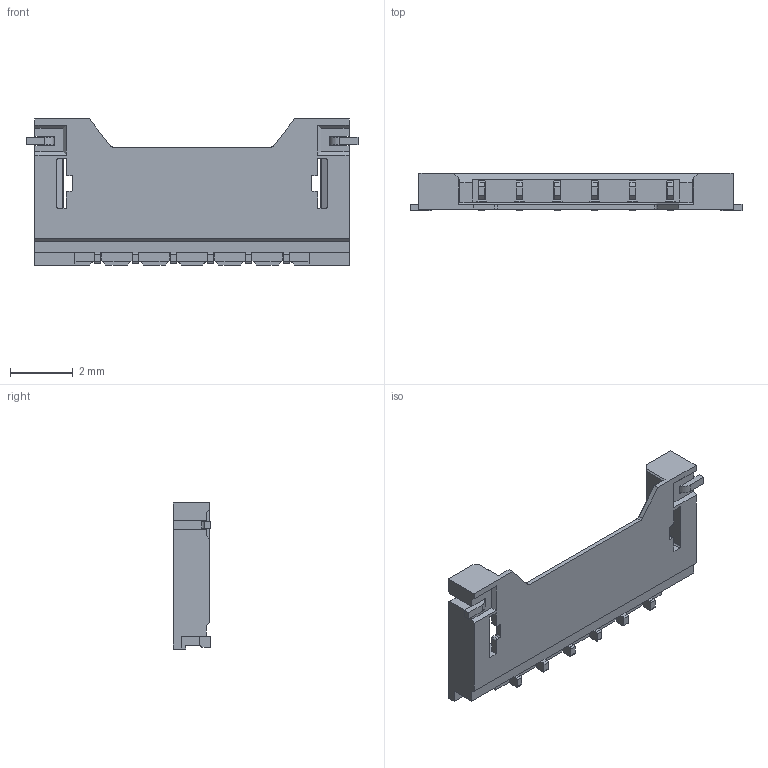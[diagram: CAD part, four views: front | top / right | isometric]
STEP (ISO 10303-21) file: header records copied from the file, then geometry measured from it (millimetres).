
FILE_DESCRIPTION((''),'2;1');
FILE_NAME('ASM0003_ASM','2015-09-14T',('k49820'),(''),'PRO/ENGINEER BY PARAMETRIC TECHNOLOGY CORPORATION, 2009440','PRO/ENGINEER BY PARAMETRIC TECHNOLOGY CORPORATION, 2009440','');
FILE_SCHEMA(('CONFIG_CONTROL_DESIGN'));
Length unit declared in the file: millimetre
Products named in the file (1): ASM0003_ASM
Bounding box: 10.57 x 1.2 x 4.65 mm (x, y, z)
Volume: 20.8 mm3; surface area: 151.8 mm2
Topology: 1 solids, 2 shells, 497 faces, 1697 edges, 1229 vertices
Faces by surface type: plane 401, cylinder 94, cone 2
Entity records: 18083 total; most frequent: CARTESIAN_POINT 3314, ORIENTED_EDGE 3212, DIRECTION 2883, EDGE_CURVE 1606, VECTOR 1477, LINE 1477, VERTEX_POINT 1047, AXIS2_PLACEMENT_3D 703
